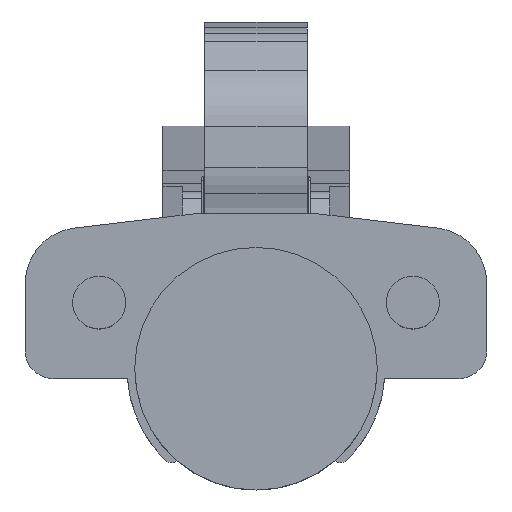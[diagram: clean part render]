
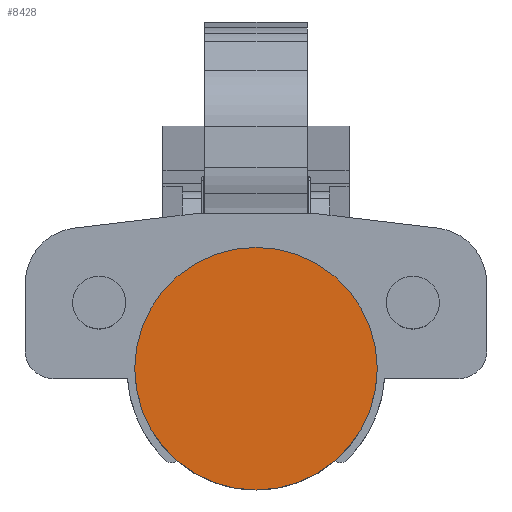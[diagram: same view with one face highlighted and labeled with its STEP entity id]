
A CAD part, top view. The second image highlights one B-rep face of the part: STEP entity #8428.
In plain terms, the highlighted planar face has unit normal (0, 0, 1).
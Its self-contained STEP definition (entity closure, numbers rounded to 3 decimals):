
#595 = ORIENTED_EDGE ( 'NONE', *, *, #13964, .T. ) ;
#1504 = DIRECTION ( 'NONE',  ( 0., 0., 1. ) ) ;
#1967 = AXIS2_PLACEMENT_3D ( 'NONE', #21800, #18176, #18294 ) ;
#3148 = ORIENTED_EDGE ( 'NONE', *, *, #19278, .T. ) ;
#3322 = CARTESIAN_POINT ( 'NONE',  ( 0., 5.722, 14.008 ) ) ;
#4360 = AXIS2_PLACEMENT_3D ( 'NONE', #18133, #22349, #8929 ) ;
#4628 = AXIS2_PLACEMENT_3D ( 'NONE', #3322, #1504, #7667 ) ;
#5124 = FACE_OUTER_BOUND ( 'NONE', #22754, .T. ) ;
#7667 = DIRECTION ( 'NONE',  ( 1., 0., 0. ) ) ;
#8034 = VERTEX_POINT ( 'NONE', #16700 ) ;
#8428 = ADVANCED_FACE ( 'NONE', ( #5124 ), #12522, .T. ) ;
#8929 = DIRECTION ( 'NONE',  ( 1., 0., 0. ) ) ;
#10476 = CIRCLE ( 'NONE', #1967, 17.4 ) ;
#11561 = VERTEX_POINT ( 'NONE', #18761 ) ;
#12522 = PLANE ( 'NONE',  #4628 ) ;
#13964 = EDGE_CURVE ( 'NONE', #11561, #8034, #10476, .T. ) ;
#16409 = CIRCLE ( 'NONE', #4360, 17.4 ) ;
#16700 = CARTESIAN_POINT ( 'NONE',  ( -17.4, 5.722, 14.008 ) ) ;
#18133 = CARTESIAN_POINT ( 'NONE',  ( 0., 5.722, 14.008 ) ) ;
#18176 = DIRECTION ( 'NONE',  ( 0., 0., 1. ) ) ;
#18294 = DIRECTION ( 'NONE',  ( 1., 0., 0. ) ) ;
#18761 = CARTESIAN_POINT ( 'NONE',  ( 17.4, 5.722, 14.008 ) ) ;
#19278 = EDGE_CURVE ( 'NONE', #8034, #11561, #16409, .T. ) ;
#21800 = CARTESIAN_POINT ( 'NONE',  ( 0., 5.722, 14.008 ) ) ;
#22349 = DIRECTION ( 'NONE',  ( 0., 0., 1. ) ) ;
#22754 = EDGE_LOOP ( 'NONE', ( #595, #3148 ) ) ;
